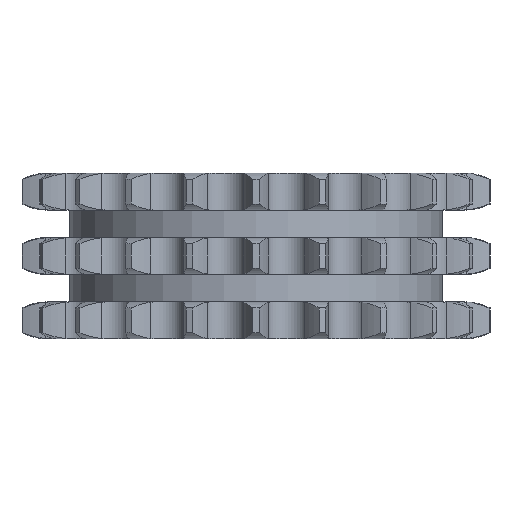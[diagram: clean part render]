
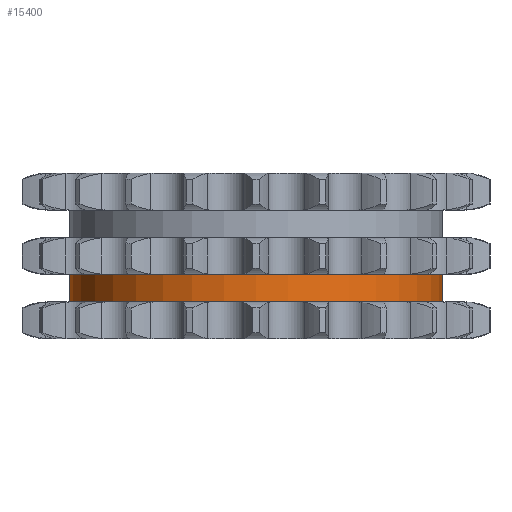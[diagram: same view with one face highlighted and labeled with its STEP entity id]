
A CAD part, left-side view. The second image highlights one B-rep face of the part: STEP entity #15400.
In plain terms, the highlighted cylindrical face has radius 55.929 mm (diameter 111.858 mm), a partial arc.
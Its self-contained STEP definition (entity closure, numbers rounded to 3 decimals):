
#1946=DIRECTION('',(0.,0.,-1.));
#1947=VECTOR('',#1946,8.25);
#1948=CARTESIAN_POINT('',(0.,55.929,-5.55));
#1949=LINE('',#1948,#1947);
#1953=CARTESIAN_POINT('',(0.,0.,-5.55));
#1954=DIRECTION('',(0.,0.,1.));
#1955=DIRECTION('',(0.,1.,0.));
#1956=AXIS2_PLACEMENT_3D('',#1953,#1954,#1955);
#1961=DIRECTION('',(0.,0.,-1.));
#1962=VECTOR('',#1961,8.25);
#1963=CARTESIAN_POINT('',(0.,-55.929,-5.55));
#1964=LINE('',#1963,#1962);
#1968=CARTESIAN_POINT('',(0.,0.,-13.8));
#1969=DIRECTION('',(0.,0.,1.));
#1970=DIRECTION('',(0.,1.,0.));
#1971=AXIS2_PLACEMENT_3D('',#1968,#1969,#1970);
#12536=CARTESIAN_POINT('',(0.,55.929,-5.55));
#12537=CARTESIAN_POINT('',(0.,55.929,-13.8));
#12538=VERTEX_POINT('',#12536);
#12539=VERTEX_POINT('',#12537);
#12540=CARTESIAN_POINT('',(0.,-55.929,-5.55));
#12541=CARTESIAN_POINT('',(0.,-55.929,-13.8));
#12542=VERTEX_POINT('',#12540);
#12543=VERTEX_POINT('',#12541);
#15388=CARTESIAN_POINT('',(0.,0.,15.18));
#15389=DIRECTION('',(0.,0.,-1.));
#15390=DIRECTION('',(0.,-1.,0.));
#15391=AXIS2_PLACEMENT_3D('',#15388,#15389,#15390);
#15392=CYLINDRICAL_SURFACE('',#15391,55.929);
#15393=ORIENTED_EDGE('',*,*,#15378,.F.);
#15394=ORIENTED_EDGE('',*,*,#15368,.T.);
#15395=ORIENTED_EDGE('',*,*,#15382,.T.);
#15397=ORIENTED_EDGE('',*,*,#15396,.F.);
#15398=EDGE_LOOP('',(#15393,#15394,#15395,#15397));
#15399=FACE_OUTER_BOUND('',#15398,.F.);
#15400=ADVANCED_FACE('',(#15399),#15392,.T.);
#1957=CIRCLE('',#1956,55.929);
#1972=CIRCLE('',#1971,55.929);
#15368=EDGE_CURVE('',#12538,#12542,#1957,.T.);
#15378=EDGE_CURVE('',#12538,#12539,#1949,.T.);
#15382=EDGE_CURVE('',#12542,#12543,#1964,.T.);
#15396=EDGE_CURVE('',#12539,#12543,#1972,.T.);
